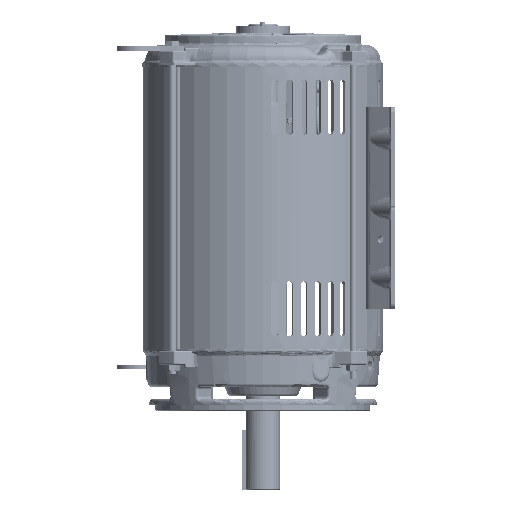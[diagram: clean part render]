
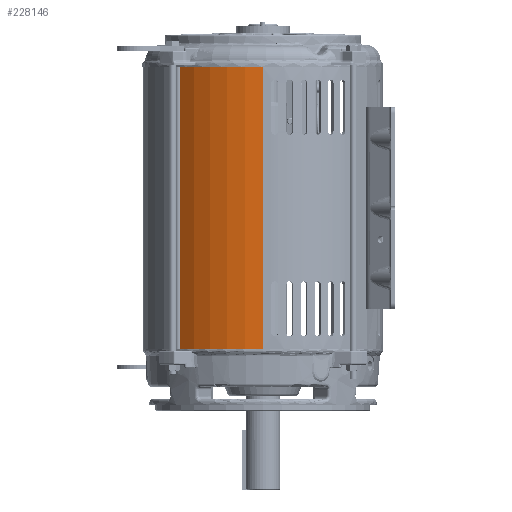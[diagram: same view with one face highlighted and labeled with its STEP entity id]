
A CAD part, left-side view. The second image highlights one B-rep face of the part: STEP entity #228146.
In plain terms, the highlighted cylindrical face has radius 120.51 mm (diameter 241.021 mm), a partial arc.
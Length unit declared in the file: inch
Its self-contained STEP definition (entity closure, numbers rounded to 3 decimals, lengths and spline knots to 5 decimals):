
#2340 = VERTEX_POINT ( 'NONE', #105992 ) ;
#4281 = VERTEX_POINT ( 'NONE', #75787 ) ;
#7544 = CARTESIAN_POINT ( 'NONE',  ( 0., 0., -11.15 ) ) ;
#12544 = EDGE_CURVE ( 'NONE', #2340, #4281, #95807, .T. ) ;
#41907 = VERTEX_POINT ( 'NONE', #92093 ) ;
#53711 = EDGE_CURVE ( 'NONE', #84546, #41907, #108666, .T. ) ;
#55484 = CARTESIAN_POINT ( 'NONE',  ( -4.7445, 0., -11.15 ) ) ;
#66278 = CIRCLE ( 'NONE', #119277, 4.7445 ) ;
#66625 = EDGE_CURVE ( 'NONE', #41907, #2340, #66278, .T. ) ;
#66927 = AXIS2_PLACEMENT_3D ( 'NONE', #7544, #138524, #83037 ) ;
#67537 = VECTOR ( 'NONE', #110054, 39.37008 ) ;
#75787 = CARTESIAN_POINT ( 'NONE',  ( -3.44208, 3.26532, -11.15 ) ) ;
#83037 = DIRECTION ( 'NONE',  ( -1., 0., 0. ) ) ;
#84546 = VERTEX_POINT ( 'NONE', #229544 ) ;
#85812 = CIRCLE ( 'NONE', #66927, 4.7445 ) ;
#88465 = DIRECTION ( 'NONE',  ( 0., 0., -1. ) ) ;
#89745 = CARTESIAN_POINT ( 'NONE',  ( 0., 0., -11.15 ) ) ;
#92093 = CARTESIAN_POINT ( 'NONE',  ( -4.7445, 0., 0. ) ) ;
#94187 = ORIENTED_EDGE ( 'NONE', *, *, #53711, .T. ) ;
#95807 = LINE ( 'NONE', #166713, #67537 ) ;
#97312 = ORIENTED_EDGE ( 'NONE', *, *, #199777, .F. ) ;
#105992 = CARTESIAN_POINT ( 'NONE',  ( -3.44208, 3.26532, 0. ) ) ;
#108666 = LINE ( 'NONE', #55484, #216811 ) ;
#110054 = DIRECTION ( 'NONE',  ( 0., 0., -1. ) ) ;
#118176 = ORIENTED_EDGE ( 'NONE', *, *, #66625, .T. ) ;
#119277 = AXIS2_PLACEMENT_3D ( 'NONE', #121617, #88465, #195974 ) ;
#121617 = CARTESIAN_POINT ( 'NONE',  ( 0., 0., 0. ) ) ;
#122083 = AXIS2_PLACEMENT_3D ( 'NONE', #89745, #232611, #142928 ) ;
#130503 = EDGE_LOOP ( 'NONE', ( #97312, #94187, #118176, #159837 ) ) ;
#138524 = DIRECTION ( 'NONE',  ( 0., 0., -1. ) ) ;
#142928 = DIRECTION ( 'NONE',  ( 1., 0., 0. ) ) ;
#159837 = ORIENTED_EDGE ( 'NONE', *, *, #12544, .T. ) ;
#166713 = CARTESIAN_POINT ( 'NONE',  ( -3.44208, 3.26532, -5.575 ) ) ;
#179524 = CYLINDRICAL_SURFACE ( 'NONE', #122083, 4.7445 ) ;
#195974 = DIRECTION ( 'NONE',  ( -1., 0., 0. ) ) ;
#197244 = FACE_OUTER_BOUND ( 'NONE', #130503, .T. ) ;
#199611 = DIRECTION ( 'NONE',  ( 0., 0., 1. ) ) ;
#199777 = EDGE_CURVE ( 'NONE', #84546, #4281, #85812, .T. ) ;
#216811 = VECTOR ( 'NONE', #199611, 39.37008 ) ;
#228146 = ADVANCED_FACE ( 'NONE', ( #197244 ), #179524, .T. ) ;
#229544 = CARTESIAN_POINT ( 'NONE',  ( -4.7445, 0., -11.15 ) ) ;
#232611 = DIRECTION ( 'NONE',  ( 0., 0., 1. ) ) ;
